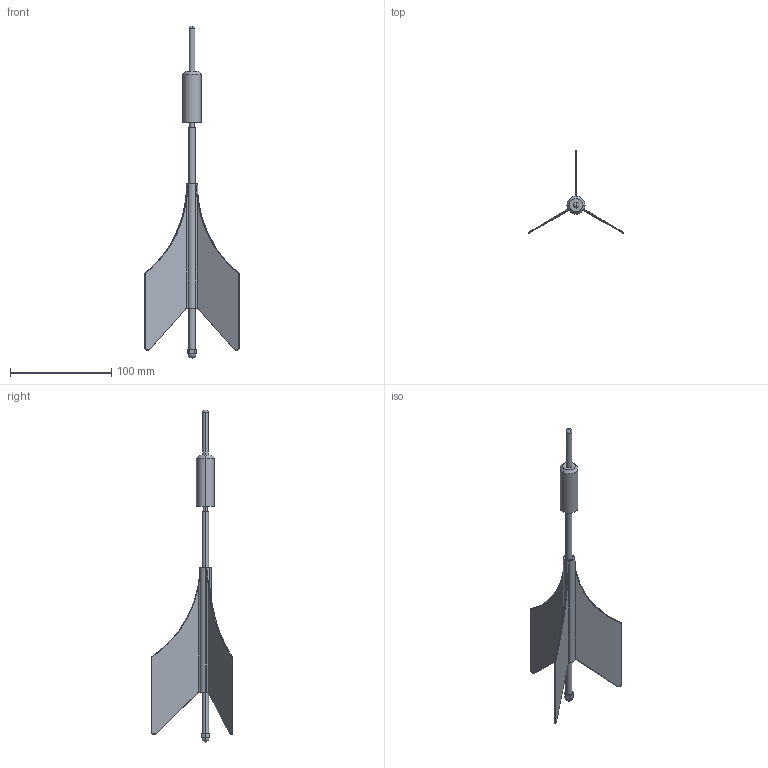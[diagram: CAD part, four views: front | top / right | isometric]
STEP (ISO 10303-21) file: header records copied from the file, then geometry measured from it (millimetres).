
FILE_DESCRIPTION (( 'STEP AP214' ), '1' );
FILE_NAME ('JART_ASSEMBLY.STEP', '2026-09-02T03:53:55', ( '' ), ( '' ), 'SwSTEP 2.0', 'SolidWorks 2025', '' );
FILE_SCHEMA (( 'AUTOMOTIVE_DESIGN' ));
Length unit declared in the file: millimetre
Products named in the file (6): Flights; Head; TUBE; Shaft; JART_ASSEMBLY; 6-32_CAP_NUT_91875A110
Assembly tree (5 placements, depth 2):
  JART_ASSEMBLY
    Head
    Shaft
    Flights
    6-32_CAP_NUT_91875A110
    TUBE
Bounding box: 93.43 x 80.98 x 327.92 mm (x, y, z)
Volume: 41924.6 mm3; surface area: 46462.4 mm2
Topology: 5 solids, 5 shells, 217 faces, 503 edges, 281 vertices
Faces by surface type: cylinder 54, bspline 50, torus 37, cone 27, plane 27, sphere 22
Entity records: 8917 total; most frequent: CARTESIAN_POINT 4325, ORIENTED_EDGE 966, DIRECTION 908, EDGE_CURVE 483, AXIS2_PLACEMENT_3D 414, VERTEX_POINT 281, CIRCLE 239, EDGE_LOOP 226
